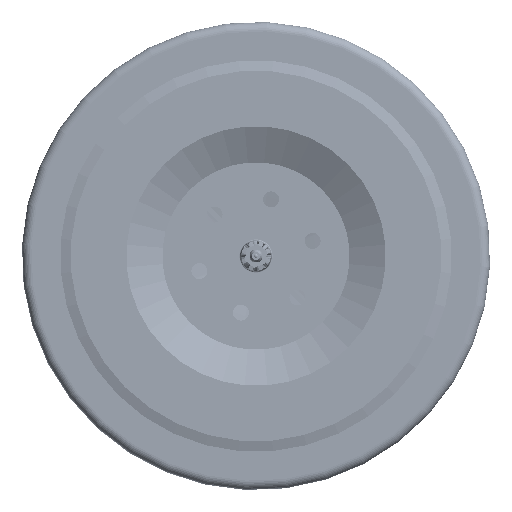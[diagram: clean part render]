
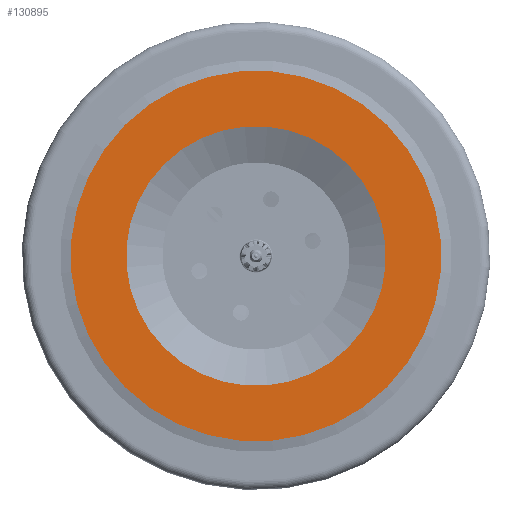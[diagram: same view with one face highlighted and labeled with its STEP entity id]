
A CAD part, left-side view. The second image highlights one B-rep face of the part: STEP entity #130895.
In plain terms, the highlighted planar face has unit normal (-1, 0, 0).
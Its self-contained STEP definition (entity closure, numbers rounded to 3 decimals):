
#2854=FACE_BOUND('',#23901,.T.);
#9999=CIRCLE('',#143113,69.301);
#10000=CIRCLE('',#143115,98.902);
#16680=FACE_OUTER_BOUND('',#23900,.T.);
#23900=EDGE_LOOP('',(#112738));
#23901=EDGE_LOOP('',(#112739));
#57803=VERTEX_POINT('',#229828);
#57804=VERTEX_POINT('',#229832);
#76119=EDGE_CURVE('',#57803,#57803,#9999,.T.);
#76120=EDGE_CURVE('',#57804,#57804,#10000,.T.);
#112738=ORIENTED_EDGE('',*,*,#76120,.F.);
#112739=ORIENTED_EDGE('',*,*,#76119,.T.);
#117425=PLANE('',#143114);
#130895=ADVANCED_FACE('',(#16680,#2854),#117425,.T.);
#143113=AXIS2_PLACEMENT_3D('',#229830,#178279,#178280);
#143114=AXIS2_PLACEMENT_3D('',#229831,#178281,#178282);
#143115=AXIS2_PLACEMENT_3D('',#229833,#178283,#178284);
#178279=DIRECTION('center_axis',(1.,0.,0.));
#178280=DIRECTION('ref_axis',(0.,-0.966,-0.259));
#178281=DIRECTION('center_axis',(-1.,0.,0.));
#178282=DIRECTION('ref_axis',(0.,0.966,0.259));
#178283=DIRECTION('center_axis',(1.,0.,0.));
#178284=DIRECTION('ref_axis',(0.,-0.966,-0.259));
#229828=CARTESIAN_POINT('',(-21.5,-17.936,66.939));
#229830=CARTESIAN_POINT('Origin',(-21.5,0.,0.));
#229831=CARTESIAN_POINT('Origin',(-21.5,25.598,-95.532));
#229832=CARTESIAN_POINT('',(-21.5,-25.598,95.532));
#229833=CARTESIAN_POINT('Origin',(-21.5,0.,0.));
